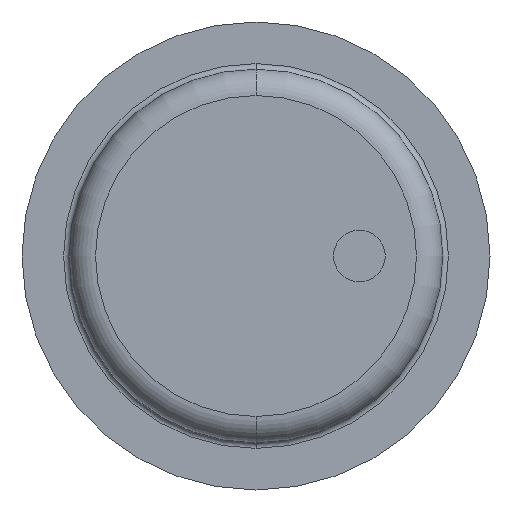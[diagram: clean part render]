
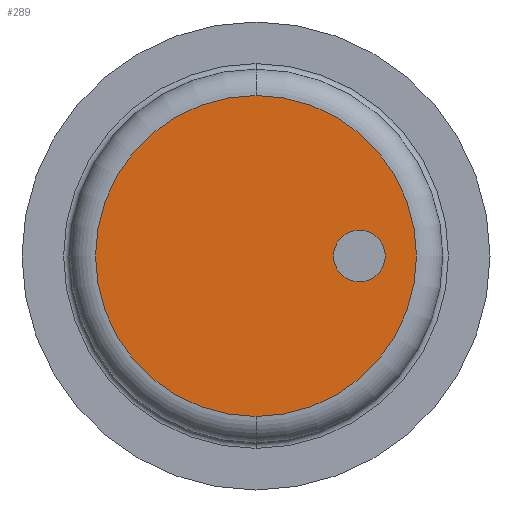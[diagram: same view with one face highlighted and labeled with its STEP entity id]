
A CAD part, front view. The second image highlights one B-rep face of the part: STEP entity #289.
In plain terms, the highlighted planar face has unit normal (0, -1, 0).
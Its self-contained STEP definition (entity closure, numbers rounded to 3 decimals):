
#289 = ADVANCED_FACE( '', ( #670, #671 ), #672, .T. );
#670 = FACE_BOUND( '', #1067, .T. );
#671 = FACE_OUTER_BOUND( '', #1068, .T. );
#672 = PLANE( '', #1069 );
#1067 = EDGE_LOOP( '', ( #2387, #2388 ) );
#1068 = EDGE_LOOP( '', ( #2389, #2390, #2391 ) );
#1069 = AXIS2_PLACEMENT_3D( '', #2392, #2393, #2394 );
#2387 = ORIENTED_EDGE( '', *, *, #2901, .T. );
#2388 = ORIENTED_EDGE( '', *, *, #2903, .T. );
#2389 = ORIENTED_EDGE( '', *, *, #2895, .F. );
#2390 = ORIENTED_EDGE( '', *, *, #2894, .F. );
#2391 = ORIENTED_EDGE( '', *, *, #2904, .F. );
#2392 = CARTESIAN_POINT( '', ( 117.688, -448., 0. ) );
#2393 = DIRECTION( '', ( 0., -1., 0. ) );
#2394 = DIRECTION( '', ( -1., 0., 0. ) );
#2894 = EDGE_CURVE( '', #3587, #3590, #3591, .T. );
#2895 = EDGE_CURVE( '', #3590, #3592, #3593, .T. );
#2901 = EDGE_CURVE( '', #3597, #3601, #3603, .T. );
#2903 = EDGE_CURVE( '', #3601, #3597, #3605, .T. );
#2904 = EDGE_CURVE( '', #3592, #3587, #3606, .T. );
#3587 = VERTEX_POINT( '', #4861 );
#3590 = VERTEX_POINT( '', #4864 );
#3591 = CIRCLE( '', #4865, 85.375 );
#3592 = VERTEX_POINT( '', #4866 );
#3593 = CIRCLE( '', #4867, 85.375 );
#3597 = VERTEX_POINT( '', #4871 );
#3601 = VERTEX_POINT( '', #4876 );
#3603 = CIRCLE( '', #4879, 13.75 );
#3605 = CIRCLE( '', #4881, 13.75 );
#3606 = CIRCLE( '', #4882, 85.375 );
#4861 = CARTESIAN_POINT( '', ( 75., -448., 85.375 ) );
#4864 = CARTESIAN_POINT( '', ( 160.375, -448., 0. ) );
#4865 = AXIS2_PLACEMENT_3D( '', #5798, #5799, #5800 );
#4866 = CARTESIAN_POINT( '', ( 75., -448., -85.375 ) );
#4867 = AXIS2_PLACEMENT_3D( '', #5801, #5802, #5803 );
#4871 = CARTESIAN_POINT( '', ( 143.75, -448., 0. ) );
#4876 = CARTESIAN_POINT( '', ( 116.25, -448., 0. ) );
#4879 = AXIS2_PLACEMENT_3D( '', #5815, #5816, #5817 );
#4881 = AXIS2_PLACEMENT_3D( '', #5821, #5822, #5823 );
#4882 = AXIS2_PLACEMENT_3D( '', #5824, #5825, #5826 );
#5798 = CARTESIAN_POINT( '', ( 75., -448., 0. ) );
#5799 = DIRECTION( '', ( 0., 1., 0. ) );
#5800 = DIRECTION( '', ( 1., 0., 0. ) );
#5801 = CARTESIAN_POINT( '', ( 75., -448., 0. ) );
#5802 = DIRECTION( '', ( 0., 1., 0. ) );
#5803 = DIRECTION( '', ( 1., 0., 0. ) );
#5815 = CARTESIAN_POINT( '', ( 130., -448., 0. ) );
#5816 = DIRECTION( '', ( 0., 1., 0. ) );
#5817 = DIRECTION( '', ( 1., 0., 0. ) );
#5821 = CARTESIAN_POINT( '', ( 130., -448., 0. ) );
#5822 = DIRECTION( '', ( 0., 1., 0. ) );
#5823 = DIRECTION( '', ( 1., 0., 0. ) );
#5824 = CARTESIAN_POINT( '', ( 75., -448., 0. ) );
#5825 = DIRECTION( '', ( 0., 1., 0. ) );
#5826 = DIRECTION( '', ( 1., 0., 0. ) );
